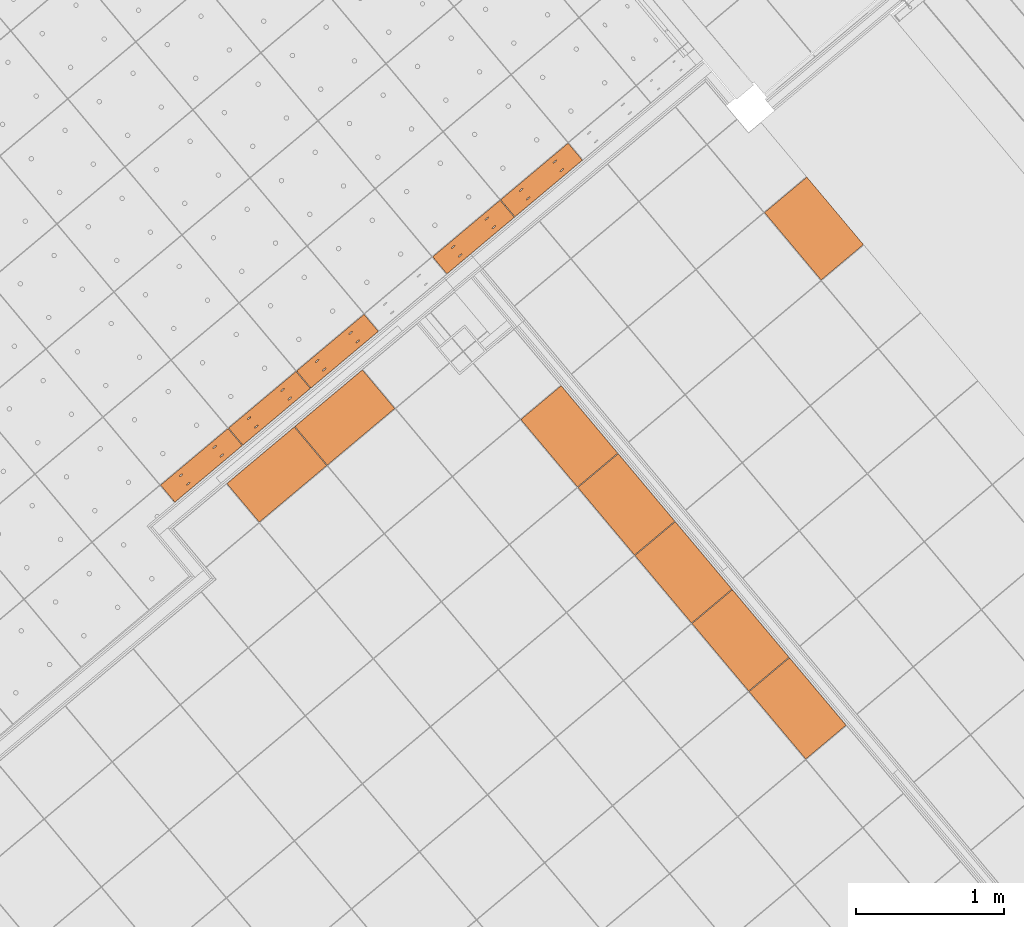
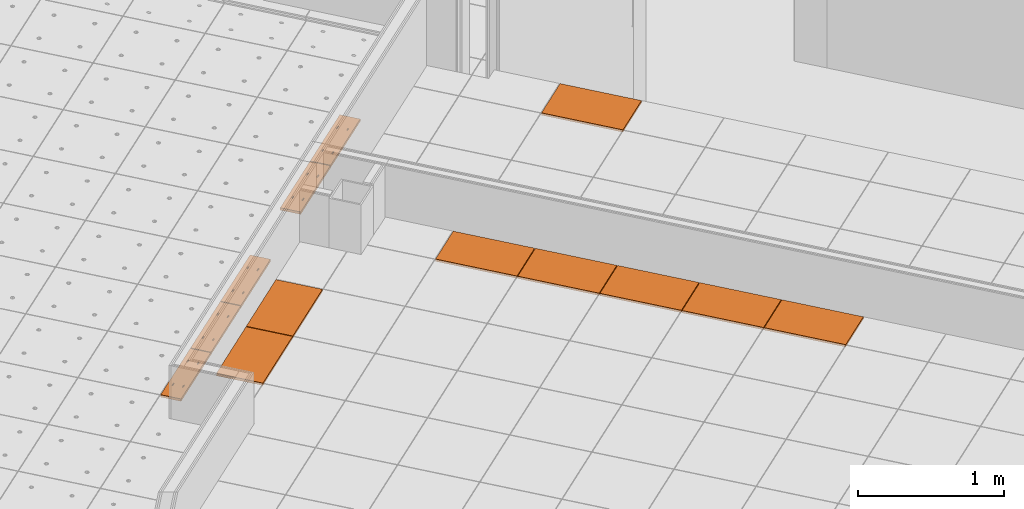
# One storey, part 201 of 338: 13 proxies, 3 elements without a shape of their own.
"""IFC2X3 building model written with IfcOpenShell, lengths in millimetres."""

from ifc_helpers import new_model, entity, si_unit, converted_unit, derived_unit, money_unit, direction, frame, origin_with_axes, place, context, subcontext, project, spatial, faceted_brep, source, transform, mapped, material, type_object, type_shapes, element, aggregate, save


model = new_model("IFC2X3")

# Units and contexts
model_context = context("Model", 3, precision=0.01, world=origin_with_axes(), true_north=direction((0.0, 1.0)))
plan_context = context("Plan", 3, precision=0.01, world=origin_with_axes(), true_north=direction((0.0, 1.0)))
body_context = subcontext(model_context, "Body", "Model", "MODEL_VIEW")
ifc_project = project(units=[si_unit("LENGTHUNIT", "METRE", prefix="MILLI"), si_unit("AREAUNIT", "SQUARE_METRE"), si_unit("VOLUMEUNIT", "CUBIC_METRE"), converted_unit("PLANEANGLEUNIT", "DEGREE", entity("IfcPlaneAngleMeasure", 0.0174532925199), si_unit("PLANEANGLEUNIT", "RADIAN"), dimensions=[0, 0, 0, 0, 0, 0, 0]), money_unit("EUR"), converted_unit("TIMEUNIT", "Year", entity("IfcTimeMeasure", 31556926.0), si_unit("TIMEUNIT", "SECOND"), dimensions=[0, 0, 1, 0, 0, 0, 0]), si_unit("MASSUNIT", "GRAM", prefix="KILO"), si_unit("THERMODYNAMICTEMPERATUREUNIT", "DEGREE_CELSIUS"), si_unit("LUMINOUSINTENSITYUNIT", "LUMEN"), si_unit("ENERGYUNIT", "JOULE", prefix="MEGA"), derived_unit("THERMALCONDUCTANCEUNIT", [(si_unit("POWERUNIT", "WATT"), 1), (si_unit("LENGTHUNIT", "METRE"), -1), (si_unit("THERMODYNAMICTEMPERATUREUNIT", "KELVIN"), -1)]), derived_unit("SPECIFICHEATCAPACITYUNIT", [(si_unit("ENERGYUNIT", "JOULE"), 1), (si_unit("MASSUNIT", "GRAM", prefix="KILO"), -1), (si_unit("THERMODYNAMICTEMPERATUREUNIT", "KELVIN"), -1)]), derived_unit("MASSDENSITYUNIT", [(si_unit("MASSUNIT", "GRAM", prefix="KILO"), 1), (si_unit("VOLUMEUNIT", "CUBIC_METRE"), -1)])], contexts=[model_context, plan_context])

# Site, building, storey
site_placement = place(None, origin_with_axes())
site = spatial("IfcSite", under=ifc_project, at=site_placement, Name="Fortuinstraat Woensdrecht", CompositionType="ELEMENT")
building_placement = place(site_placement, origin_with_axes())
building = spatial("IfcBuilding", under=site, at=building_placement, Name="IKC Fortuna", CompositionType="ELEMENT")
storey_placement = place(building_placement, origin_with_axes())
storey = spatial("IfcBuildingStorey", under=building, at=storey_placement, Name="00 begane grond", CompositionType="ELEMENT", Elevation=0.0)

# Covering, proxies
covering_type = type_object("IfcCoveringType", Name="Curtain Wall Type", PredefinedType="CEILING")
covering_1_placement = place(storey_placement, frame((17937.1227498, -4186.27868692, 4660.0), z_axis=(0.0, 0.0, 1.0), x_axis=(1.0, 0.0, 0.0)))
covering_1 = element("IfcCovering", 1, at=covering_1_placement, inside=storey, type_object=covering_type, Name="45_Plafondafwerking_P02", PredefinedType="CEILING")
ifc_material = material(Name="Gipsplaat")
building_element_proxy_type_1 = type_object("IfcBuildingElementProxyType", Name="Distinct Panel 360 x 600 x 20", PredefinedType="NOTDEFINED")
shared_shape_1 = source(origin_with_axes(), body_context, "Body", "Brep", [
    faceted_brep([(242.243727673, 2.50000936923, -10.0), (597.499997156, 2.50000349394, -10.0), (597.499997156, 2.50000349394, 10.0), (242.243727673, 2.50000936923, 10.0), (242.243731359, 597.499993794, -10.0), (597.500000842, 597.499987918, -10.0), (597.500000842, 597.499987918, 10.0), (242.243731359, 597.499993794, 10.0)], [[[0, 1, 2, 3]], [[0, 4, 5, 1]], [[1, 5, 6, 2]], [[3, 2, 6, 7]], [[4, 0, 3, 7]], [[5, 4, 7, 6]]]),
])
proxy_1_placement = place(covering_1_placement, frame((-2093.92398531, 5109.25472509, 0.0), z_axis=(0.0, 0.0, 1.0), x_axis=(1.0, 0.0, 0.0)))
proxy_1 = element("IfcBuildingElementProxy", 2, at=proxy_1_placement, type_object=building_element_proxy_type_1, material=ifc_material, Name="__Panel-D", context=body_context, shape_type="MappedRepresentation", body=[
    mapped(shared_shape_1, transform((128.804099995, 499.70179874, 0.0), x_axis=(-0.766044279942, -0.642787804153, 0.0), y_axis=(0.642787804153, -0.766044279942, 0.0), z_axis=(0.0, 0.0, 1.0))),
])
shared_shape_2 = source(origin_with_axes(), body_context, "Body", "Brep", [
    faceted_brep([(242.243728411, 2.50000093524, -10.0), (597.500004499, 2.50000293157, -10.0), (597.500004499, 2.50000293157, 10.0), (242.243728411, 2.50000093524, 10.0), (242.243738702, 597.499993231, -10.0), (597.499992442, 597.500000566, -10.0), (597.499992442, 597.500000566, 10.0), (242.243738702, 597.499993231, 10.0)], [[[0, 1, 2, 3]], [[0, 4, 5, 1]], [[1, 5, 6, 2]], [[3, 2, 6, 7]], [[4, 0, 3, 7]], [[5, 4, 7, 6]]]),
])
proxy_2_placement = place(covering_1_placement, frame((-2865.26935029, 6028.50786102, 0.0), z_axis=(0.0, 0.0, 1.0), x_axis=(1.0, 0.0, 0.0)))
proxy_2 = element("IfcBuildingElementProxy", 3, at=proxy_2_placement, type_object=building_element_proxy_type_1, material=ifc_material, Name="__Panel-D", context=body_context, shape_type="MappedRepresentation", body=[
    mapped(shared_shape_2, transform((128.804099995, 499.70179874, 0.0), x_axis=(-0.766044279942, -0.642787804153, 0.0), y_axis=(0.642787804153, -0.766044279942, 0.0), z_axis=(0.0, 0.0, 1.0))),
])
proxy_3_placement = place(covering_1_placement, frame((-1708.25130281, 4649.62815712, 0.0), z_axis=(0.0, 0.0, 1.0), x_axis=(1.0, 0.0, 0.0)))
proxy_3 = element("IfcBuildingElementProxy", 4, at=proxy_3_placement, type_object=building_element_proxy_type_1, material=ifc_material, Name="__Panel-D", context=body_context, shape_type="MappedRepresentation", body=[
    mapped(shared_shape_2, transform((128.804099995, 499.70179874, 0.0), x_axis=(-0.766044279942, -0.642787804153, 0.0), y_axis=(0.642787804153, -0.766044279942, 0.0), z_axis=(0.0, 0.0, 1.0))),
])
shared_shape_3 = source(origin_with_axes(), body_context, "Body", "Brep", [
    faceted_brep([(242.243725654, 2.49999764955, -10.0), (597.500001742, 2.49999964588, -10.0), (597.500001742, 2.49999964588, 10.0), (242.243725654, 2.49999764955, 10.0), (242.243728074, 597.499996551, -10.0), (597.499997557, 597.499990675, -10.0), (597.499997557, 597.499990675, 10.0), (242.243728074, 597.499996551, 10.0)], [[[0, 1, 2, 3]], [[0, 4, 5, 1]], [[1, 5, 6, 2]], [[3, 2, 6, 7]], [[4, 0, 3, 7]], [[5, 4, 7, 6]]]),
])
type_shapes(building_element_proxy_type_1, [shared_shape_1, shared_shape_2, shared_shape_3])
proxy_4_placement = place(covering_1_placement, frame((-2479.5966678, 5568.88129306, 0.0), z_axis=(0.0, 0.0, 1.0), x_axis=(1.0, 0.0, 0.0)))
proxy_4 = element("IfcBuildingElementProxy", 5, at=proxy_4_placement, type_object=building_element_proxy_type_1, material=ifc_material, Name="__Panel-D", context=body_context, shape_type="MappedRepresentation", body=[
    mapped(shared_shape_3, transform((128.804099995, 499.70179874, 0.0), x_axis=(-0.766044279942, -0.642787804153, 0.0), y_axis=(0.642787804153, -0.766044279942, 0.0), z_axis=(0.0, 0.0, 1.0))),
])
proxy_5_placement = place(covering_1_placement, frame((-1322.57862032, 4190.00158916, 0.0), z_axis=(0.0, 0.0, 1.0), x_axis=(1.0, 0.0, 0.0)))
proxy_5 = element("IfcBuildingElementProxy", 6, at=proxy_5_placement, type_object=building_element_proxy_type_1, material=ifc_material, Name="__Panel-D", context=body_context, shape_type="MappedRepresentation", body=[
    mapped(shared_shape_3, transform((128.804099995, 499.70179874, 0.0), x_axis=(-0.766044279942, -0.642787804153, 0.0), y_axis=(0.642787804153, -0.766044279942, 0.0), z_axis=(0.0, 0.0, 1.0))),
])
building_element_proxy_type_2 = type_object("IfcBuildingElementProxyType", Name="Distinct Panel 600 x 345 x 20", PredefinedType="NOTDEFINED")
shared_shape_4 = source(origin_with_axes(), body_context, "Body", "Brep", [
    faceted_brep([(2.49999791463, 257.227213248, -10.0), (597.500004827, 257.227709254, -10.0), (597.500004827, 257.227709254, 10.0), (2.49999791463, 257.227213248, 10.0), (2.49999958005, 597.500010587, -10.0), (597.499993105, 597.50000199, -10.0), (597.499993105, 597.50000199, 10.0), (2.49999958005, 597.500010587, 10.0)], [[[0, 1, 2, 3]], [[0, 4, 5, 1]], [[1, 5, 6, 2]], [[3, 2, 6, 7]], [[4, 0, 3, 7]], [[5, 4, 7, 6]]]),
])
type_shapes(building_element_proxy_type_2, [shared_shape_4])
proxy_6_placement = place(covering_1_placement, frame((-4382.17285383, 6155.90156321, 0.0), z_axis=(0.0, 0.0, 1.0), x_axis=(1.0, 0.0, 0.0)))
proxy_6 = element("IfcBuildingElementProxy", 7, at=proxy_6_placement, type_object=building_element_proxy_type_2, material=ifc_material, Name="__Panel-D", context=body_context, shape_type="MappedRepresentation", body=[
    mapped(shared_shape_4, transform((-44.8909473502, 520.215927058, 0.0), x_axis=(-0.766044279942, -0.642787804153, 0.0), y_axis=(0.642787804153, -0.766044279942, 0.0), z_axis=(0.0, 0.0, 1.0))),
])
proxy_7_placement = place(covering_1_placement, frame((-4841.79925782, 5770.22868529, 0.0), z_axis=(0.0, 0.0, 1.0), x_axis=(1.0, 0.0, 0.0)))
proxy_7 = element("IfcBuildingElementProxy", 8, at=proxy_7_placement, type_object=building_element_proxy_type_2, material=ifc_material, Name="__Panel-D", context=body_context, shape_type="MappedRepresentation", body=[
    mapped(shared_shape_4, transform((-44.8911113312, 520.216122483, 0.0), x_axis=(-0.766044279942, -0.642787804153, 0.0), y_axis=(0.642787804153, -0.766044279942, 0.0), z_axis=(0.0, 0.0, 1.0))),
])
aggregate(covering_1, [proxy_2, proxy_4, proxy_3, proxy_5, proxy_1, proxy_6, proxy_7])

covering_2_placement = place(storey_placement, frame((15863.124366, 4456.31398675, 4619.99995334), z_axis=(0.0, 0.0, 1.0), x_axis=(1.0, 0.0, 0.0)))
covering_2 = element("IfcCovering", 9, at=covering_2_placement, inside=storey, type_object=covering_type, Name="45_Plafondafwerking_P01", PredefinedType="CEILING")
building_element_proxy_type_3 = type_object("IfcBuildingElementProxyType", Name="Main Panel 600 x 155 x 20", PredefinedType="NOTDEFINED")
shared_shape_5 = source(origin_with_axes(), body_context, "Body", "Brep", [
    faceted_brep([(2.49998744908, 2.49999213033, -10.0), (299.99999735, 2.49999213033, -10.0), (299.99999735, 2.49999213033, 10.0), (2.49998744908, 2.49999213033, 10.0), (2.49998744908, 77.4544066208, -10.0), (2.49998744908, 152.408821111, -10.0), (299.99999735, 152.408821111, -10.0), (597.50000725, 152.408821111, -10.0), (597.50000725, 77.4544066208, -10.0), (597.50000725, 2.49999213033, -10.0), (166.249992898, 115.262252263, -10.0), (165.794225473, 115.913482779, -10.0), (164.896538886, 116.534879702, -10.0), (163.58420889, 117.107562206, -10.0), (161.897109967, 117.614129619, -10.0), (159.886503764, 118.03919015, -10.0), (157.613481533, 118.369828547, -10.0), (155.147107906, 118.595998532, -10.0), (152.562322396, 118.710828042, -10.0), (149.937662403, 118.710828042, -10.0), (147.352876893, 118.595998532, -10.0), (144.886503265, 118.369828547, -10.0), (142.613481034, 118.03919015, -10.0), (140.602874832, 117.614129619, -10.0), (138.915775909, 117.107562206, -10.0), (137.603445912, 116.534879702, -10.0), (136.705759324, 115.913482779, -10.0), (136.2499919, 115.262252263, -10.0), (136.2499919, 114.931613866, -10.0), (136.2499919, 114.600975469, -10.0), (136.705759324, 113.949744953, -10.0), (137.603445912, 113.32834803, -10.0), (138.915775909, 112.755665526, -10.0), (140.602874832, 112.249098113, -10.0), (142.613481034, 111.824037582, -10.0), (144.886503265, 111.493399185, -10.0), (147.352876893, 111.2672292, -10.0), (149.937662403, 111.15239969, -10.0), (152.562322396, 111.15239969, -10.0), (155.147107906, 111.2672292, -10.0), (157.613481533, 111.493399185, -10.0), (159.886503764, 111.824037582, -10.0), (161.897109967, 112.249098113, -10.0), (163.58420889, 112.755665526, -10.0), (164.896538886, 113.32834803, -10.0), (165.794225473, 113.949744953, -10.0), (166.249992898, 114.600975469, -10.0), (463.750002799, 115.262252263, -10.0), (463.294235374, 115.913482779, -10.0), (462.396548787, 116.534879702, -10.0), (461.08421879, 117.107562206, -10.0), (459.397119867, 117.614129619, -10.0), (457.386513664, 118.03919015, -10.0), (455.113491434, 118.369828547, -10.0), (452.647117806, 118.595998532, -10.0), (450.062332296, 118.710828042, -10.0), (447.437672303, 118.710828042, -10.0), (444.852886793, 118.595998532, -10.0), (442.386513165, 118.369828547, -10.0), (440.113490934, 118.03919015, -10.0), (438.102884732, 117.614129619, -10.0), (436.415785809, 117.107562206, -10.0), (435.103455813, 116.534879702, -10.0), (434.205769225, 115.913482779, -10.0), (433.750001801, 115.262252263, -10.0), (433.750001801, 114.931613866, -10.0), (433.750001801, 114.600975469, -10.0), (434.205769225, 113.949744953, -10.0), (435.103455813, 113.32834803, -10.0), (436.415785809, 112.755665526, -10.0), (438.102884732, 112.249098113, -10.0), (440.113490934, 111.824037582, -10.0), (442.386513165, 111.493399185, -10.0), (444.852886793, 111.2672292, -10.0), (447.437672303, 111.15239969, -10.0), (450.062332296, 111.15239969, -10.0), (452.647117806, 111.2672292, -10.0), (455.113491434, 111.493399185, -10.0), (457.386513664, 111.824037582, -10.0), (459.397119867, 112.249098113, -10.0), (461.08421879, 112.755665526, -10.0), (462.396548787, 113.32834803, -10.0), (463.294235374, 113.949744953, -10.0), (463.750002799, 114.600975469, -10.0), (463.750002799, 40.3078377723, -10.0), (463.294235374, 40.9590682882, -10.0), (462.396548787, 41.5804652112, -10.0), (461.08421879, 42.1531477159, -10.0), (459.397119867, 42.6597151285, -10.0), (457.386513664, 43.0847756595, -10.0), (455.113491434, 43.4154140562, -10.0), (452.647117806, 43.6415840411, -10.0), (450.062332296, 43.7564135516, -10.0), (447.437672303, 43.7564135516, -10.0), (444.852886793, 43.6415840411, -10.0), (442.386513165, 43.4154140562, -10.0), (440.113490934, 43.0847756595, -10.0), (438.102884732, 42.6597151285, -10.0), (436.415785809, 42.1531477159, -10.0), (435.103455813, 41.5804652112, -10.0), (434.205769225, 40.9590682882, -10.0), (433.750001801, 40.3078377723, -10.0), (433.750001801, 39.9771993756, -10.0), (433.750001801, 39.6465609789, -10.0), (434.205769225, 38.9953304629, -10.0), (435.103455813, 38.3739335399, -10.0), (436.415785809, 37.8012510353, -10.0), (438.102884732, 37.2946836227, -10.0), (440.113490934, 36.8696230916, -10.0), (442.386513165, 36.5389846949, -10.0), (444.852886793, 36.31281471, -10.0), (447.437672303, 36.1979851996, -10.0), (450.062332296, 36.1979851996, -10.0), (452.647117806, 36.31281471, -10.0), (455.113491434, 36.5389846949, -10.0), (457.386513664, 36.8696230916, -10.0), (459.397119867, 37.2946836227, -10.0), (461.08421879, 37.8012510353, -10.0), (462.396548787, 38.3739335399, -10.0), (463.294235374, 38.9953304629, -10.0), (463.750002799, 39.6465609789, -10.0), (166.249992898, 40.3078377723, -10.0), (165.794225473, 40.9590682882, -10.0), (164.896538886, 41.5804652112, -10.0), (163.58420889, 42.1531477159, -10.0), (161.897109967, 42.6597151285, -10.0), (159.886503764, 43.0847756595, -10.0), (157.613481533, 43.4154140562, -10.0), (155.147107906, 43.6415840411, -10.0), (152.562322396, 43.7564135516, -10.0), (149.937662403, 43.7564135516, -10.0), (147.352876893, 43.6415840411, -10.0), (144.886503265, 43.4154140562, -10.0), (142.613481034, 43.0847756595, -10.0), (140.602874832, 42.6597151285, -10.0), (138.915775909, 42.1531477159, -10.0), (137.603445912, 41.5804652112, -10.0), (136.705759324, 40.9590682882, -10.0), (136.2499919, 40.3078377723, -10.0), (136.2499919, 39.9771993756, -10.0), (136.2499919, 39.6465609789, -10.0), (136.705759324, 38.9953304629, -10.0), (137.603445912, 38.3739335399, -10.0), (138.915775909, 37.8012510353, -10.0), (140.602874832, 37.2946836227, -10.0), (142.613481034, 36.8696230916, -10.0), (144.886503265, 36.5389846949, -10.0), (147.352876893, 36.31281471, -10.0), (149.937662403, 36.1979851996, -10.0), (152.562322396, 36.1979851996, -10.0), (155.147107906, 36.31281471, -10.0), (157.613481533, 36.5389846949, -10.0), (159.886503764, 36.8696230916, -10.0), (161.897109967, 37.2946836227, -10.0), (163.58420889, 37.8012510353, -10.0), (164.896538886, 38.3739335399, -10.0), (165.794225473, 38.9953304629, -10.0), (166.249992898, 39.6465609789, -10.0), (597.50000725, 2.49999213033, 10.0), (597.50000725, 77.4544066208, 10.0), (597.50000725, 152.408821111, 10.0), (299.99999735, 152.408821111, 10.0), (2.49998744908, 152.408821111, 10.0), (2.49998744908, 77.4544066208, 10.0), (166.249992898, 115.262252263, 10.0), (166.249992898, 114.600975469, 10.0), (165.794225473, 113.949744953, 10.0), (164.896538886, 113.32834803, 10.0), (163.58420889, 112.755665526, 10.0), (161.897109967, 112.249098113, 10.0), (159.886503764, 111.824037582, 10.0), (157.613481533, 111.493399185, 10.0), (155.147107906, 111.2672292, 10.0), (152.562322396, 111.15239969, 10.0), (149.937662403, 111.15239969, 10.0), (147.352876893, 111.2672292, 10.0), (144.886503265, 111.493399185, 10.0), (142.613481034, 111.824037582, 10.0), (140.602874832, 112.249098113, 10.0), (138.915775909, 112.755665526, 10.0), (137.603445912, 113.32834803, 10.0), (136.705759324, 113.949744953, 10.0), (136.2499919, 114.600975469, 10.0), (136.2499919, 114.931613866, 10.0), (136.2499919, 115.262252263, 10.0), (136.705759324, 115.913482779, 10.0), (137.603445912, 116.534879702, 10.0), (138.915775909, 117.107562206, 10.0), (140.602874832, 117.614129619, 10.0), (142.613481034, 118.03919015, 10.0), (144.886503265, 118.369828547, 10.0), (147.352876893, 118.595998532, 10.0), (149.937662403, 118.710828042, 10.0), (152.562322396, 118.710828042, 10.0), (155.147107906, 118.595998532, 10.0), (157.613481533, 118.369828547, 10.0), (159.886503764, 118.03919015, 10.0), (161.897109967, 117.614129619, 10.0), (163.58420889, 117.107562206, 10.0), (164.896538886, 116.534879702, 10.0), (165.794225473, 115.913482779, 10.0), (463.750002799, 115.262252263, 10.0), (463.750002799, 114.600975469, 10.0), (463.294235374, 113.949744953, 10.0), (462.396548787, 113.32834803, 10.0), (461.08421879, 112.755665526, 10.0), (459.397119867, 112.249098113, 10.0), (457.386513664, 111.824037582, 10.0), (455.113491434, 111.493399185, 10.0), (452.647117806, 111.2672292, 10.0), (450.062332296, 111.15239969, 10.0), (447.437672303, 111.15239969, 10.0), (444.852886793, 111.2672292, 10.0), (442.386513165, 111.493399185, 10.0), (440.113490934, 111.824037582, 10.0), (438.102884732, 112.249098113, 10.0), (436.415785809, 112.755665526, 10.0), (435.103455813, 113.32834803, 10.0), (434.205769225, 113.949744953, 10.0), (433.750001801, 114.600975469, 10.0), (433.750001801, 114.931613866, 10.0), (433.750001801, 115.262252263, 10.0), (434.205769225, 115.913482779, 10.0), (435.103455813, 116.534879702, 10.0), (436.415785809, 117.107562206, 10.0), (438.102884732, 117.614129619, 10.0), (440.113490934, 118.03919015, 10.0), (442.386513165, 118.369828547, 10.0), (444.852886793, 118.595998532, 10.0), (447.437672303, 118.710828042, 10.0), (450.062332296, 118.710828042, 10.0), (452.647117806, 118.595998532, 10.0), (455.113491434, 118.369828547, 10.0), (457.386513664, 118.03919015, 10.0), (459.397119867, 117.614129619, 10.0), (461.08421879, 117.107562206, 10.0), (462.396548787, 116.534879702, 10.0), (463.294235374, 115.913482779, 10.0), (463.750002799, 40.3078377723, 10.0), (463.750002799, 39.6465609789, 10.0), (463.294235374, 38.9953304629, 10.0), (462.396548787, 38.3739335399, 10.0), (461.08421879, 37.8012510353, 10.0), (459.397119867, 37.2946836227, 10.0), (457.386513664, 36.8696230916, 10.0), (455.113491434, 36.5389846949, 10.0), (452.647117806, 36.31281471, 10.0), (450.062332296, 36.1979851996, 10.0), (447.437672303, 36.1979851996, 10.0), (444.852886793, 36.31281471, 10.0), (442.386513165, 36.5389846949, 10.0), (440.113490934, 36.8696230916, 10.0), (438.102884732, 37.2946836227, 10.0), (436.415785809, 37.8012510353, 10.0), (435.103455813, 38.3739335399, 10.0), (434.205769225, 38.9953304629, 10.0), (433.750001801, 39.6465609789, 10.0), (433.750001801, 39.9771993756, 10.0), (433.750001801, 40.3078377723, 10.0), (434.205769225, 40.9590682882, 10.0), (435.103455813, 41.5804652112, 10.0), (436.415785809, 42.1531477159, 10.0), (438.102884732, 42.6597151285, 10.0), (440.113490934, 43.0847756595, 10.0), (442.386513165, 43.4154140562, 10.0), (444.852886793, 43.6415840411, 10.0), (447.437672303, 43.7564135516, 10.0), (450.062332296, 43.7564135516, 10.0), (452.647117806, 43.6415840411, 10.0), (455.113491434, 43.4154140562, 10.0), (457.386513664, 43.0847756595, 10.0), (459.397119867, 42.6597151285, 10.0), (461.08421879, 42.1531477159, 10.0), (462.396548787, 41.5804652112, 10.0), (463.294235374, 40.9590682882, 10.0), (166.249992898, 40.3078377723, 10.0), (166.249992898, 39.6465609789, 10.0), (165.794225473, 38.9953304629, 10.0), (164.896538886, 38.3739335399, 10.0), (163.58420889, 37.8012510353, 10.0), (161.897109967, 37.2946836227, 10.0), (159.886503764, 36.8696230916, 10.0), (157.613481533, 36.5389846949, 10.0), (155.147107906, 36.31281471, 10.0), (152.562322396, 36.1979851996, 10.0), (149.937662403, 36.1979851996, 10.0), (147.352876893, 36.31281471, 10.0), (144.886503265, 36.5389846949, 10.0), (142.613481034, 36.8696230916, 10.0), (140.602874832, 37.2946836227, 10.0), (138.915775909, 37.8012510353, 10.0), (137.603445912, 38.3739335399, 10.0), (136.705759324, 38.9953304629, 10.0), (136.2499919, 39.6465609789, 10.0), (136.2499919, 39.9771993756, 10.0), (136.2499919, 40.3078377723, 10.0), (136.705759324, 40.9590682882, 10.0), (137.603445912, 41.5804652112, 10.0), (138.915775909, 42.1531477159, 10.0), (140.602874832, 42.6597151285, 10.0), (142.613481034, 43.0847756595, 10.0), (144.886503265, 43.4154140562, 10.0), (147.352876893, 43.6415840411, 10.0), (149.937662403, 43.7564135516, 10.0), (152.562322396, 43.7564135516, 10.0), (155.147107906, 43.6415840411, 10.0), (157.613481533, 43.4154140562, 10.0), (159.886503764, 43.0847756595, 10.0), (161.897109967, 42.6597151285, 10.0), (163.58420889, 42.1531477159, 10.0), (164.896538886, 41.5804652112, 10.0), (165.794225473, 40.9590682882, 10.0)], [[[0, 1, 2, 3]], [[0, 4, 5, 6, 7, 8, 9, 1], [10, 11, 12, 13, 14, 15, 16, 17, 18, 19, 20, 21, 22, 23, 24, 25, 26, 27, 28, 29, 30, 31, 32, 33, 34, 35, 36, 37, 38, 39, 40, 41, 42, 43, 44, 45, 46], [47, 48, 49, 50, 51, 52, 53, 54, 55, 56, 57, 58, 59, 60, 61, 62, 63, 64, 65, 66, 67, 68, 69, 70, 71, 72, 73, 74, 75, 76, 77, 78, 79, 80, 81, 82, 83], [84, 85, 86, 87, 88, 89, 90, 91, 92, 93, 94, 95, 96, 97, 98, 99, 100, 101, 102, 103, 104, 105, 106, 107, 108, 109, 110, 111, 112, 113, 114, 115, 116, 117, 118, 119, 120], [121, 122, 123, 124, 125, 126, 127, 128, 129, 130, 131, 132, 133, 134, 135, 136, 137, 138, 139, 140, 141, 142, 143, 144, 145, 146, 147, 148, 149, 150, 151, 152, 153, 154, 155, 156, 157]], [[1, 9, 158, 2]], [[3, 2, 158, 159, 160, 161, 162, 163], [164, 165, 166, 167, 168, 169, 170, 171, 172, 173, 174, 175, 176, 177, 178, 179, 180, 181, 182, 183, 184, 185, 186, 187, 188, 189, 190, 191, 192, 193, 194, 195, 196, 197, 198, 199, 200], [201, 202, 203, 204, 205, 206, 207, 208, 209, 210, 211, 212, 213, 214, 215, 216, 217, 218, 219, 220, 221, 222, 223, 224, 225, 226, 227, 228, 229, 230, 231, 232, 233, 234, 235, 236, 237], [238, 239, 240, 241, 242, 243, 244, 245, 246, 247, 248, 249, 250, 251, 252, 253, 254, 255, 256, 257, 258, 259, 260, 261, 262, 263, 264, 265, 266, 267, 268, 269, 270, 271, 272, 273, 274], [275, 276, 277, 278, 279, 280, 281, 282, 283, 284, 285, 286, 287, 288, 289, 290, 291, 292, 293, 294, 295, 296, 297, 298, 299, 300, 301, 302, 303, 304, 305, 306, 307, 308, 309, 310, 311]], [[4, 0, 3, 163]], [[5, 4, 163, 162]], [[6, 5, 162, 161]], [[7, 6, 161, 160]], [[8, 7, 160, 159]], [[9, 8, 159, 158]], [[11, 10, 164, 200]], [[12, 11, 200, 199]], [[13, 12, 199, 198]], [[14, 13, 198, 197]], [[15, 14, 197, 196]], [[16, 15, 196, 195]], [[17, 16, 195, 194]], [[18, 17, 194, 193]], [[19, 18, 193, 192]], [[20, 19, 192, 191]], [[21, 20, 191, 190]], [[22, 21, 190, 189]], [[23, 22, 189, 188]], [[24, 23, 188, 187]], [[25, 24, 187, 186]], [[26, 25, 186, 185]], [[27, 26, 185, 184]], [[28, 27, 184, 183]], [[29, 28, 183, 182]], [[30, 29, 182, 181]], [[31, 30, 181, 180]], [[32, 31, 180, 179]], [[33, 32, 179, 178]], [[34, 33, 178, 177]], [[35, 34, 177, 176]], [[36, 35, 176, 175]], [[37, 36, 175, 174]], [[38, 37, 174, 173]], [[39, 38, 173, 172]], [[40, 39, 172, 171]], [[41, 40, 171, 170]], [[42, 41, 170, 169]], [[43, 42, 169, 168]], [[44, 43, 168, 167]], [[45, 44, 167, 166]], [[46, 45, 166, 165]], [[10, 46, 165, 164]], [[48, 47, 201, 237]], [[49, 48, 237, 236]], [[50, 49, 236, 235]], [[51, 50, 235, 234]], [[52, 51, 234, 233]], [[53, 52, 233, 232]], [[54, 53, 232, 231]], [[55, 54, 231, 230]], [[56, 55, 230, 229]], [[57, 56, 229, 228]], [[58, 57, 228, 227]], [[59, 58, 227, 226]], [[60, 59, 226, 225]], [[61, 60, 225, 224]], [[62, 61, 224, 223]], [[63, 62, 223, 222]], [[64, 63, 222, 221]], [[65, 64, 221, 220]], [[66, 65, 220, 219]], [[67, 66, 219, 218]], [[68, 67, 218, 217]], [[69, 68, 217, 216]], [[70, 69, 216, 215]], [[71, 70, 215, 214]], [[72, 71, 214, 213]], [[73, 72, 213, 212]], [[74, 73, 212, 211]], [[75, 74, 211, 210]], [[76, 75, 210, 209]], [[77, 76, 209, 208]], [[78, 77, 208, 207]], [[79, 78, 207, 206]], [[80, 79, 206, 205]], [[81, 80, 205, 204]], [[82, 81, 204, 203]], [[83, 82, 203, 202]], [[47, 83, 202, 201]], [[85, 84, 238, 274]], [[86, 85, 274, 273]], [[87, 86, 273, 272]], [[88, 87, 272, 271]], [[89, 88, 271, 270]], [[90, 89, 270, 269]], [[91, 90, 269, 268]], [[92, 91, 268, 267]], [[93, 92, 267, 266]], [[94, 93, 266, 265]], [[95, 94, 265, 264]], [[96, 95, 264, 263]], [[97, 96, 263, 262]], [[98, 97, 262, 261]], [[99, 98, 261, 260]], [[100, 99, 260, 259]], [[101, 100, 259, 258]], [[102, 101, 258, 257]], [[103, 102, 257, 256]], [[104, 103, 256, 255]], [[105, 104, 255, 254]], [[106, 105, 254, 253]], [[107, 106, 253, 252]], [[108, 107, 252, 251]], [[109, 108, 251, 250]], [[110, 109, 250, 249]], [[111, 110, 249, 248]], [[112, 111, 248, 247]], [[113, 112, 247, 246]], [[114, 113, 246, 245]], [[115, 114, 245, 244]], [[116, 115, 244, 243]], [[117, 116, 243, 242]], [[118, 117, 242, 241]], [[119, 118, 241, 240]], [[120, 119, 240, 239]], [[84, 120, 239, 238]], [[122, 121, 275, 311]], [[123, 122, 311, 310]], [[124, 123, 310, 309]], [[125, 124, 309, 308]], [[126, 125, 308, 307]], [[127, 126, 307, 306]], [[128, 127, 306, 305]], [[129, 128, 305, 304]], [[130, 129, 304, 303]], [[131, 130, 303, 302]], [[132, 131, 302, 301]], [[133, 132, 301, 300]], [[134, 133, 300, 299]], [[135, 134, 299, 298]], [[136, 135, 298, 297]], [[137, 136, 297, 296]], [[138, 137, 296, 295]], [[139, 138, 295, 294]], [[140, 139, 294, 293]], [[141, 140, 293, 292]], [[142, 141, 292, 291]], [[143, 142, 291, 290]], [[144, 143, 290, 289]], [[145, 144, 289, 288]], [[146, 145, 288, 287]], [[147, 146, 287, 286]], [[148, 147, 286, 285]], [[149, 148, 285, 284]], [[150, 149, 284, 283]], [[151, 150, 283, 282]], [[152, 151, 282, 281]], [[153, 152, 281, 280]], [[154, 153, 280, 279]], [[155, 154, 279, 278]], [[156, 155, 278, 277]], [[157, 156, 277, 276]], [[121, 157, 276, 275]]]),
])
type_shapes(building_element_proxy_type_3, [shared_shape_5])
proxy_8_placement = place(covering_2_placement, frame((-978.963634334, -881.704907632, 7.03077313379), z_axis=(0.0, 0.0, 1.0), x_axis=(0.642787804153, -0.766044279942, 0.0)))
proxy_8 = element("IfcBuildingElementProxy", 10, at=proxy_8_placement, type_object=building_element_proxy_type_3, material=ifc_material, Name="__600x076 Rockfon Krios", context=body_context, shape_type="MappedRepresentation", body=[
    mapped(shared_shape_5, transform((-77.4544115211, 299.995617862, -1.62150043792), x_axis=(0.0, -0.999985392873, 0.00540500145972), y_axis=(1.0, 0.0, 0.0), z_axis=(0.0, 0.00540500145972, 0.999985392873))),
])
proxy_9_placement = place(covering_2_placement, frame((-1438.58348848, -1267.37195655, 10.2737740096), z_axis=(0.0, 0.0, 1.0), x_axis=(0.642787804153, -0.766044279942, 0.0)))
proxy_9 = element("IfcBuildingElementProxy", 11, at=proxy_9_placement, type_object=building_element_proxy_type_3, material=ifc_material, Name="__600x077 Rockfon Krios", context=body_context, shape_type="MappedRepresentation", body=[
    mapped(shared_shape_5, transform((-77.4544115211, 299.995617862, -1.62150043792), x_axis=(0.0, -0.999985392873, 0.00540500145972), y_axis=(1.0, 0.0, 0.0), z_axis=(0.0, 0.00540500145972, 0.999985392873))),
])
proxy_10_placement = place(covering_2_placement, frame((-2357.82319676, -2038.7060544, 16.7597757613), z_axis=(0.0, 0.0, 1.0), x_axis=(0.642787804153, -0.766044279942, 0.0)))
proxy_10 = element("IfcBuildingElementProxy", 12, at=proxy_10_placement, type_object=building_element_proxy_type_3, material=ifc_material, Name="__600x079 Rockfon Krios", context=body_context, shape_type="MappedRepresentation", body=[
    mapped(shared_shape_5, transform((-77.4544115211, 299.995617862, -1.62150043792), x_axis=(0.0, -0.999985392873, 0.00540500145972), y_axis=(1.0, 0.0, 0.0), z_axis=(0.0, 0.00540500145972, 0.999985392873))),
])
proxy_11_placement = place(covering_2_placement, frame((-2817.4430509, -2424.37310332, 20.0027766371), z_axis=(0.0, 0.0, 1.0), x_axis=(0.642787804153, -0.766044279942, 0.0)))
proxy_11 = element("IfcBuildingElementProxy", 13, at=proxy_11_placement, type_object=building_element_proxy_type_3, material=ifc_material, Name="__600x080 Rockfon Krios", context=body_context, shape_type="MappedRepresentation", body=[
    mapped(shared_shape_5, transform((-77.4544115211, 299.995617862, -1.62150043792), x_axis=(0.0, -0.999985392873, 0.00540500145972), y_axis=(1.0, 0.0, 0.0), z_axis=(0.0, 0.00540500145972, 0.999985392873))),
])
proxy_12_placement = place(covering_2_placement, frame((-3277.06290504, -2810.04015224, 23.2457775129), z_axis=(0.0, 0.0, 1.0), x_axis=(0.642787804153, -0.766044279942, 0.0)))
proxy_12 = element("IfcBuildingElementProxy", 14, at=proxy_12_placement, type_object=building_element_proxy_type_3, material=ifc_material, Name="__600x081 Rockfon Krios", context=body_context, shape_type="MappedRepresentation", body=[
    mapped(shared_shape_5, transform((-77.4544115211, 299.995617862, -1.62150043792), x_axis=(0.0, -0.999985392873, 0.00540500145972), y_axis=(1.0, 0.0, 0.0), z_axis=(0.0, 0.00540500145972, 0.999985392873))),
])
aggregate(covering_2, [proxy_8, proxy_9, proxy_10, proxy_11, proxy_12])

# Covering, proxy
covering_3_placement = place(storey_placement, frame((19821.8074512, -1204.73183435, 4460.0), z_axis=(0.0, 0.0, 1.0), x_axis=(1.0, 0.0, 0.0)))
covering_3 = element("IfcCovering", 15, at=covering_3_placement, inside=storey, type_object=covering_type, Name="45_Plafondafwerking_P04", PredefinedType="CEILING")
building_element_proxy_type_4 = type_object("IfcBuildingElementProxyType", Name="Distinct Panel 378 x 600 x 20", PredefinedType="NOTDEFINED")
shared_shape_6 = source(origin_with_axes(), body_context, "Body", "Brep", [
    faceted_brep([(-375.502349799, 2.49998639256, -10.0), (-375.502349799, 2.49998639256, 10.0), (-375.502361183, 597.500003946, 10.0), (-375.502361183, 597.500003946, -10.0), (-2.50000103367, 2.50000271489, -10.0), (-2.50000103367, 2.50000271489, 10.0), (-2.49999641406, 597.50000684, 10.0), (-2.49999641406, 597.50000684, -10.0)], [[[0, 1, 2, 3]], [[4, 5, 1, 0]], [[1, 5, 6, 2]], [[3, 2, 6, 7]], [[0, 3, 7, 4]], [[7, 6, 5, 4]]]),
])
type_shapes(building_element_proxy_type_4, [shared_shape_6])
proxy_13_placement = place(covering_3_placement, frame((-3096.45713801, 4450.9634176, 0.0), z_axis=(0.0, 0.0, 1.0), x_axis=(1.0, 0.0, 0.0)))
proxy_13 = element("IfcBuildingElementProxy", 16, at=proxy_13_placement, type_object=building_element_proxy_type_4, material=ifc_material, Name="__Panel-D", context=body_context, shape_type="MappedRepresentation", body=[
    mapped(shared_shape_6, transform((-337.619601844, 108.325665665, 0.0), x_axis=(-0.766044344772, -0.642787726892, 0.0), y_axis=(0.642787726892, -0.766044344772, 0.0), z_axis=(0.0, 0.0, 1.0))),
])
aggregate(covering_3, [proxy_13])

save(model, "model.ifc")
